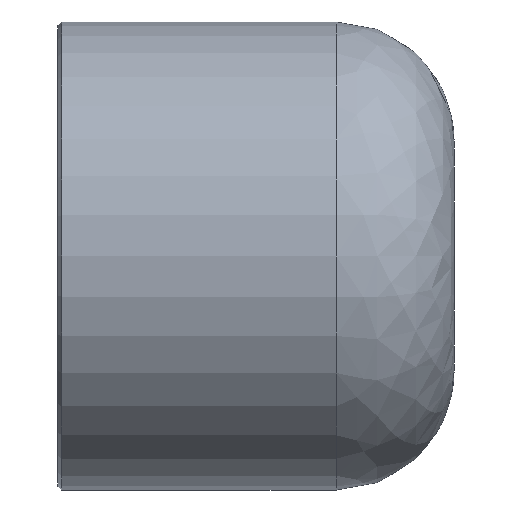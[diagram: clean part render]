
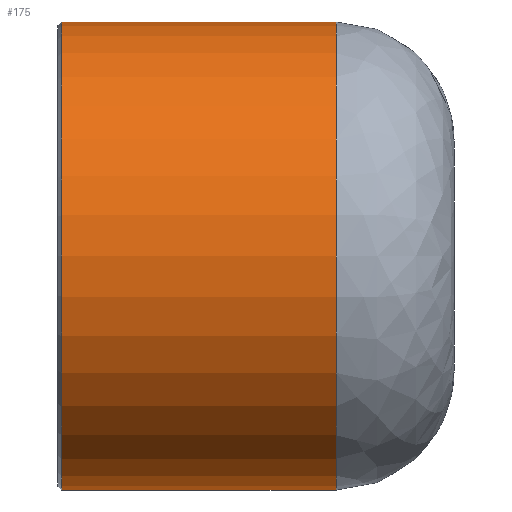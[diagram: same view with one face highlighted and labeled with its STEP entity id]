
A CAD part, front view. The second image highlights one B-rep face of the part: STEP entity #175.
In plain terms, the highlighted cylindrical face has radius 19.852 mm (diameter 39.705 mm), a full revolution.
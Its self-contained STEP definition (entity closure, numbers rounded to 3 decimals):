
#144=CARTESIAN_POINT('',(0.3,19.853,0.));
#145=VERTEX_POINT('',#144);
#146=CARTESIAN_POINT('',(0.3,0.0,0.0));
#147=DIRECTION('',(-1.0,0.0,0.0));
#148=DIRECTION('',(0.0,-1.0,0.0));
#149=AXIS2_PLACEMENT_3D('',#146,#147,#148);
#150=CIRCLE('',#149,19.853);
#151=EDGE_CURVE('',#145,#145,#150,.T.);
#156=CARTESIAN_POINT('',(11.8,0.0,0.0));
#157=DIRECTION('',(1.0,0.0,0.0));
#158=DIRECTION('',(0.0,1.0,0.0));
#159=AXIS2_PLACEMENT_3D('',#156,#157,#158);
#160=CYLINDRICAL_SURFACE('',#159,19.853);
#161=CARTESIAN_POINT('',(23.6,19.853,0.0));
#162=VERTEX_POINT('',#161);
#163=CARTESIAN_POINT('',(23.6,0.0,0.0));
#164=DIRECTION('',(1.0,0.0,0.0));
#165=DIRECTION('',(0.0,1.0,0.0));
#166=AXIS2_PLACEMENT_3D('',#163,#164,#165);
#167=CIRCLE('',#166,19.853);
#168=EDGE_CURVE('',#162,#162,#167,.T.);
#169=ORIENTED_EDGE('',*,*,#168,.F.);
#170=EDGE_LOOP('',(#169));
#171=FACE_OUTER_BOUND('',#170,.T.);
#172=ORIENTED_EDGE('',*,*,#151,.F.);
#173=EDGE_LOOP('',(#172));
#174=FACE_BOUND('',#173,.T.);
#175=ADVANCED_FACE('',(#171,#174),#160,.T.);
